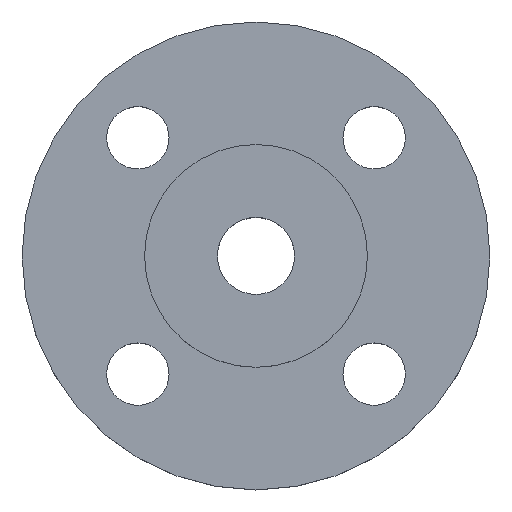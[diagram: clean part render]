
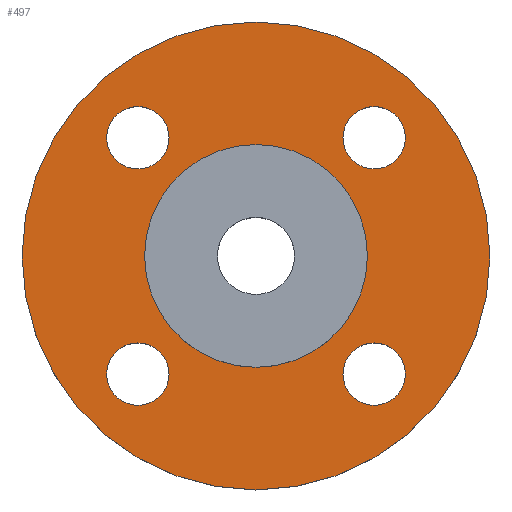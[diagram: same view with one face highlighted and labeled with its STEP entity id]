
A CAD part, top view. The second image highlights one B-rep face of the part: STEP entity #497.
In plain terms, the highlighted planar face has unit normal (0, 0, 1).
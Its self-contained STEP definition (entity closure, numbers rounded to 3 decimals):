
#7 = AXIS2_PLACEMENT_3D ( 'NONE', #249, #248, #247 ) ;
#12 = CIRCLE ( 'NONE', #399, 25. ) ;
#16 = CIRCLE ( 'NONE', #7, 7. ) ;
#19 = AXIS2_PLACEMENT_3D ( 'NONE', #189, #188, #187 ) ;
#29 = CIRCLE ( 'NONE', #32, 7. ) ;
#31 = AXIS2_PLACEMENT_3D ( 'NONE', #281, #280, #279 ) ;
#32 = AXIS2_PLACEMENT_3D ( 'NONE', #103, #112, #105 ) ;
#33 = CIRCLE ( 'NONE', #31, 25. ) ;
#34 = CIRCLE ( 'NONE', #720, 52.5 ) ;
#45 = CIRCLE ( 'NONE', #47, 7. ) ;
#47 = AXIS2_PLACEMENT_3D ( 'NONE', #138, #513, #508 ) ;
#48 = EDGE_CURVE ( 'NONE', #597, #638, #384, .T. ) ;
#53 = AXIS2_PLACEMENT_3D ( 'NONE', #276, #274, #273 ) ;
#62 = CIRCLE ( 'NONE', #644, 52.5 ) ;
#70 = CIRCLE ( 'NONE', #485, 7. ) ;
#86 = EDGE_CURVE ( 'NONE', #473, #451, #491, .T. ) ;
#92 = DIRECTION ( 'NONE',  ( 1., 0., 0. ) ) ;
#99 = DIRECTION ( 'NONE',  ( -1., 0., 0. ) ) ;
#103 = CARTESIAN_POINT ( 'NONE',  ( -26.517, -26.517, -4.5 ) ) ;
#104 = CARTESIAN_POINT ( 'NONE',  ( -33.517, 26.517, -4.5 ) ) ;
#105 = DIRECTION ( 'NONE',  ( 1., 0., 0. ) ) ;
#112 = DIRECTION ( 'NONE',  ( 0., 0., -1. ) ) ;
#117 = DIRECTION ( 'NONE',  ( -1., 0., 0. ) ) ;
#120 = CARTESIAN_POINT ( 'NONE',  ( -19.517, -26.517, -4.5 ) ) ;
#122 = DIRECTION ( 'NONE',  ( 0., 0., -1. ) ) ;
#127 = CARTESIAN_POINT ( 'NONE',  ( 0., 0., -4.5 ) ) ;
#138 = CARTESIAN_POINT ( 'NONE',  ( 26.517, 26.517, -4.5 ) ) ;
#140 = CARTESIAN_POINT ( 'NONE',  ( 52.5, 0., -4.5 ) ) ;
#164 = CARTESIAN_POINT ( 'NONE',  ( -33.517, -26.517, -4.5 ) ) ;
#165 = CARTESIAN_POINT ( 'NONE',  ( 0., 0., -4.5 ) ) ;
#168 = DIRECTION ( 'NONE',  ( 0., 0., -1. ) ) ;
#175 = EDGE_CURVE ( 'NONE', #451, #473, #320, .T. ) ;
#176 = CARTESIAN_POINT ( 'NONE',  ( -25., 0., -4.5 ) ) ;
#187 = DIRECTION ( 'NONE',  ( 1., 0., 0. ) ) ;
#188 = DIRECTION ( 'NONE',  ( 0., 0., 1. ) ) ;
#189 = CARTESIAN_POINT ( 'NONE',  ( 25., 0., -4.5 ) ) ;
#191 = PLANE ( 'NONE',  #19 ) ;
#192 = FACE_OUTER_BOUND ( 'NONE', #588, .T. ) ;
#193 = FACE_BOUND ( 'NONE', #536, .T. ) ;
#194 = FACE_BOUND ( 'NONE', #450, .T. ) ;
#195 = FACE_BOUND ( 'NONE', #519, .T. ) ;
#196 = FACE_BOUND ( 'NONE', #488, .T. ) ;
#197 = FACE_BOUND ( 'NONE', #500, .T. ) ;
#204 = CARTESIAN_POINT ( 'NONE',  ( 19.517, -26.517, -4.5 ) ) ;
#209 = CIRCLE ( 'NONE', #53, 7. ) ;
#226 = AXIS2_PLACEMENT_3D ( 'NONE', #430, #428, #427 ) ;
#238 = CARTESIAN_POINT ( 'NONE',  ( 33.517, -26.517, -4.5 ) ) ;
#239 = DIRECTION ( 'NONE',  ( -1., 0., 0. ) ) ;
#240 = DIRECTION ( 'NONE',  ( 0., 0., -1. ) ) ;
#241 = CARTESIAN_POINT ( 'NONE',  ( 0., 0., -4.5 ) ) ;
#247 = DIRECTION ( 'NONE',  ( 1., 0., 0. ) ) ;
#248 = DIRECTION ( 'NONE',  ( 0., 0., -1. ) ) ;
#249 = CARTESIAN_POINT ( 'NONE',  ( -26.517, -26.517, -4.5 ) ) ;
#273 = DIRECTION ( 'NONE',  ( 1., 0., 0. ) ) ;
#274 = DIRECTION ( 'NONE',  ( 0., 0., -1. ) ) ;
#276 = CARTESIAN_POINT ( 'NONE',  ( -26.517, 26.517, -4.5 ) ) ;
#279 = DIRECTION ( 'NONE',  ( -1., 0., 0. ) ) ;
#280 = DIRECTION ( 'NONE',  ( 0., 0., -1. ) ) ;
#281 = CARTESIAN_POINT ( 'NONE',  ( 0., 0., -4.5 ) ) ;
#282 = EDGE_CURVE ( 'NONE', #602, #543, #70, .T. ) ;
#283 = DIRECTION ( 'NONE',  ( 1., 0., 0. ) ) ;
#284 = DIRECTION ( 'NONE',  ( 0., 0., -1. ) ) ;
#285 = EDGE_CURVE ( 'NONE', #507, #521, #33, .T. ) ;
#286 = CARTESIAN_POINT ( 'NONE',  ( 26.517, 26.517, -4.5 ) ) ;
#292 = EDGE_CURVE ( 'NONE', #638, #597, #209, .T. ) ;
#317 = AXIS2_PLACEMENT_3D ( 'NONE', #341, #340, #92 ) ;
#320 = CIRCLE ( 'NONE', #317, 7. ) ;
#340 = DIRECTION ( 'NONE',  ( 0., 0., -1. ) ) ;
#341 = CARTESIAN_POINT ( 'NONE',  ( 26.517, -26.517, -4.5 ) ) ;
#356 = EDGE_CURVE ( 'NONE', #579, #528, #16, .T. ) ;
#370 = EDGE_CURVE ( 'NONE', #521, #507, #12, .T. ) ;
#384 = CIRCLE ( 'NONE', #226, 7. ) ;
#398 = DIRECTION ( 'NONE',  ( 1., 0., 0. ) ) ;
#399 = AXIS2_PLACEMENT_3D ( 'NONE', #241, #240, #239 ) ;
#400 = DIRECTION ( 'NONE',  ( 0., 0., -1. ) ) ;
#401 = CARTESIAN_POINT ( 'NONE',  ( 26.517, -26.517, -4.5 ) ) ;
#427 = DIRECTION ( 'NONE',  ( 1., 0., 0. ) ) ;
#428 = DIRECTION ( 'NONE',  ( 0., 0., -1. ) ) ;
#430 = CARTESIAN_POINT ( 'NONE',  ( -26.517, 26.517, -4.5 ) ) ;
#450 = EDGE_LOOP ( 'NONE', ( #607, #608 ) ) ;
#451 = VERTEX_POINT ( 'NONE', #238 ) ;
#473 = VERTEX_POINT ( 'NONE', #204 ) ;
#485 = AXIS2_PLACEMENT_3D ( 'NONE', #286, #284, #283 ) ;
#487 = AXIS2_PLACEMENT_3D ( 'NONE', #401, #400, #398 ) ;
#488 = EDGE_LOOP ( 'NONE', ( #591, #596 ) ) ;
#491 = CIRCLE ( 'NONE', #487, 7. ) ;
#497 = ADVANCED_FACE ( 'NONE', ( #197, #196, #195, #194, #193, #192 ), #191, .T. ) ;
#500 = EDGE_LOOP ( 'NONE', ( #589, #590 ) ) ;
#507 = VERTEX_POINT ( 'NONE', #176 ) ;
#508 = DIRECTION ( 'NONE',  ( 1., 0., 0. ) ) ;
#513 = DIRECTION ( 'NONE',  ( 0., 0., -1. ) ) ;
#518 = CARTESIAN_POINT ( 'NONE',  ( -19.517, 26.517, -4.5 ) ) ;
#519 = EDGE_LOOP ( 'NONE', ( #599, #601 ) ) ;
#521 = VERTEX_POINT ( 'NONE', #688 ) ;
#528 = VERTEX_POINT ( 'NONE', #164 ) ;
#536 = EDGE_LOOP ( 'NONE', ( #609, #610 ) ) ;
#543 = VERTEX_POINT ( 'NONE', #648 ) ;
#567 = EDGE_CURVE ( 'NONE', #528, #579, #29, .T. ) ;
#578 = EDGE_CURVE ( 'NONE', #622, #663, #34, .T. ) ;
#579 = VERTEX_POINT ( 'NONE', #120 ) ;
#588 = EDGE_LOOP ( 'NONE', ( #612, #613 ) ) ;
#589 = ORIENTED_EDGE ( 'NONE', *, *, #175, .T. ) ;
#590 = ORIENTED_EDGE ( 'NONE', *, *, #86, .T. ) ;
#591 = ORIENTED_EDGE ( 'NONE', *, *, #356, .T. ) ;
#596 = ORIENTED_EDGE ( 'NONE', *, *, #567, .T. ) ;
#597 = VERTEX_POINT ( 'NONE', #104 ) ;
#599 = ORIENTED_EDGE ( 'NONE', *, *, #292, .T. ) ;
#601 = ORIENTED_EDGE ( 'NONE', *, *, #48, .T. ) ;
#602 = VERTEX_POINT ( 'NONE', #700 ) ;
#607 = ORIENTED_EDGE ( 'NONE', *, *, #632, .T. ) ;
#608 = ORIENTED_EDGE ( 'NONE', *, *, #282, .T. ) ;
#609 = ORIENTED_EDGE ( 'NONE', *, *, #285, .T. ) ;
#610 = ORIENTED_EDGE ( 'NONE', *, *, #370, .T. ) ;
#612 = ORIENTED_EDGE ( 'NONE', *, *, #578, .F. ) ;
#613 = ORIENTED_EDGE ( 'NONE', *, *, #691, .F. ) ;
#622 = VERTEX_POINT ( 'NONE', #140 ) ;
#632 = EDGE_CURVE ( 'NONE', #543, #602, #45, .T. ) ;
#638 = VERTEX_POINT ( 'NONE', #518 ) ;
#644 = AXIS2_PLACEMENT_3D ( 'NONE', #165, #168, #99 ) ;
#648 = CARTESIAN_POINT ( 'NONE',  ( 33.517, 26.517, -4.5 ) ) ;
#663 = VERTEX_POINT ( 'NONE', #718 ) ;
#688 = CARTESIAN_POINT ( 'NONE',  ( 25., 0., -4.5 ) ) ;
#691 = EDGE_CURVE ( 'NONE', #663, #622, #62, .T. ) ;
#700 = CARTESIAN_POINT ( 'NONE',  ( 19.517, 26.517, -4.5 ) ) ;
#718 = CARTESIAN_POINT ( 'NONE',  ( -52.5, 0., -4.5 ) ) ;
#720 = AXIS2_PLACEMENT_3D ( 'NONE', #127, #122, #117 ) ;
